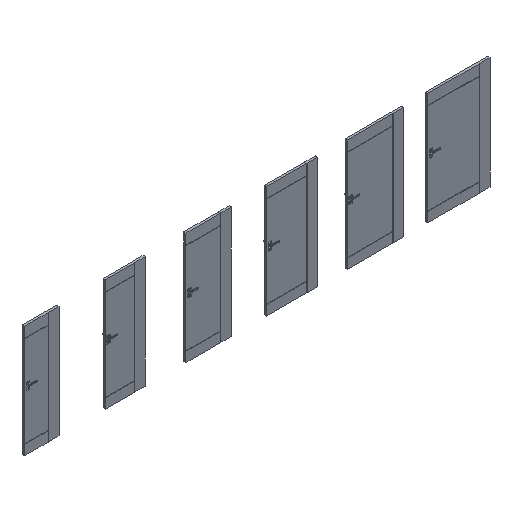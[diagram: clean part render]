
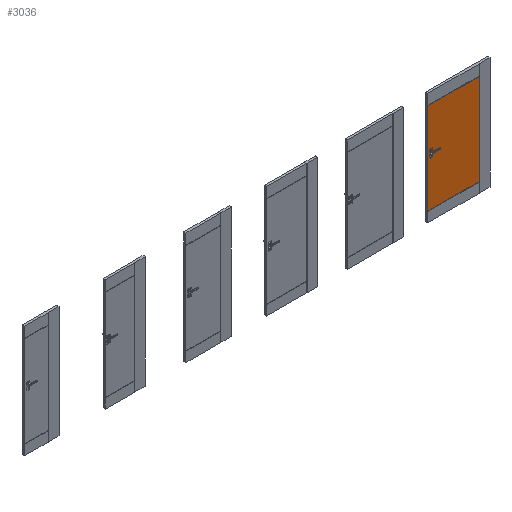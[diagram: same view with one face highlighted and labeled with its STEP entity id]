
A CAD part, isometric view. The second image highlights one B-rep face of the part: STEP entity #3036.
In plain terms, the highlighted planar face has unit normal (0, -1, 0).
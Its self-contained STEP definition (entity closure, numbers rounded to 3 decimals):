
#3036=ADVANCED_FACE('',(#5196),#4232,.F.);
#4232=PLANE('',#23541);
#5196=FACE_OUTER_BOUND('',#6576,.T.);
#6576=EDGE_LOOP('',(#10054,#10055,#10056,#10057));
#10054=ORIENTED_EDGE('',*,*,#16898,.T.);
#10055=ORIENTED_EDGE('',*,*,#16899,.T.);
#10056=ORIENTED_EDGE('',*,*,#16900,.T.);
#10057=ORIENTED_EDGE('',*,*,#16901,.T.);
#14510=VERTEX_POINT('',#36105);
#14511=VERTEX_POINT('',#36106);
#14512=VERTEX_POINT('',#36108);
#14513=VERTEX_POINT('',#36110);
#16898=EDGE_CURVE('',#14510,#14511,#19658,.T.);
#16899=EDGE_CURVE('',#14511,#14512,#19659,.T.);
#16900=EDGE_CURVE('',#14512,#14513,#19660,.T.);
#16901=EDGE_CURVE('',#14513,#14510,#19661,.T.);
#19658=LINE('',#36104,#21698);
#19659=LINE('',#36107,#21699);
#19660=LINE('',#36109,#21700);
#19661=LINE('',#36111,#21701);
#21698=VECTOR('',#27141,1.);
#21699=VECTOR('',#27142,1.);
#21700=VECTOR('',#27143,1.);
#21701=VECTOR('',#27144,1.);
#23541=AXIS2_PLACEMENT_3D('',#36112,#27145,#27146);
#27141=DIRECTION('',(0.,0.,1.));
#27142=DIRECTION('',(-1.,0.,0.));
#27143=DIRECTION('',(0.,0.,-1.));
#27144=DIRECTION('',(1.,0.,0.));
#27145=DIRECTION('',(0.,1.,0.));
#27146=DIRECTION('',(-1.,0.,0.));
#36104=CARTESIAN_POINT('',(7863.,-39.3,0.));
#36105=CARTESIAN_POINT('',(7863.,-39.3,183.));
#36106=CARTESIAN_POINT('',(7863.,-39.3,1821.));
#36107=CARTESIAN_POINT('',(7863.,-39.3,1821.));
#36108=CARTESIAN_POINT('',(6941.,-39.3,1821.));
#36109=CARTESIAN_POINT('',(6941.,-39.3,2017.));
#36110=CARTESIAN_POINT('',(6941.,-39.3,183.));
#36111=CARTESIAN_POINT('',(6941.,-39.3,183.));
#36112=CARTESIAN_POINT('',(7191.,-39.3,2017.));
